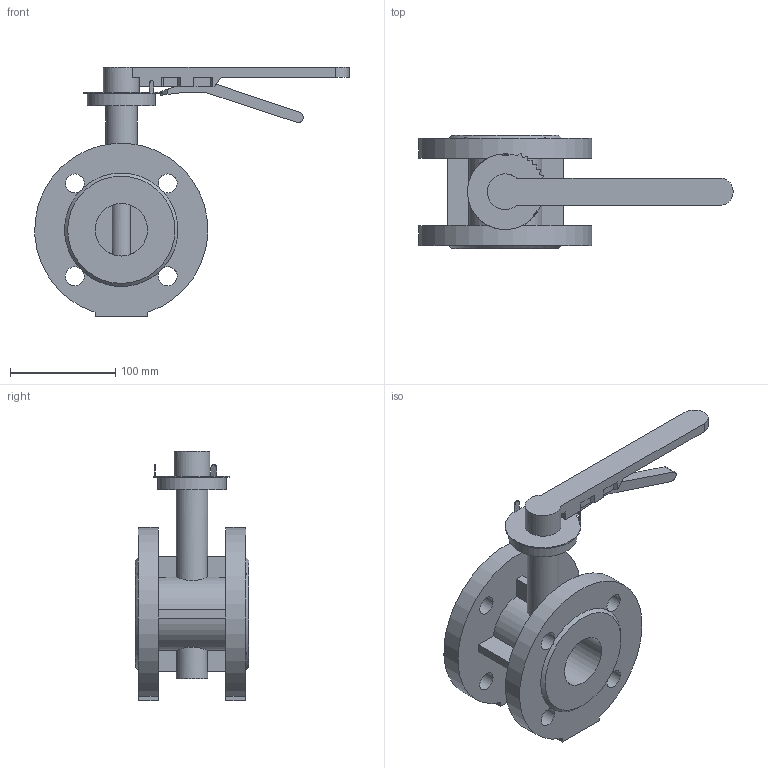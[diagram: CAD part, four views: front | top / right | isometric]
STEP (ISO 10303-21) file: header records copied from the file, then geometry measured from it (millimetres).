
FILE_DESCRIPTION(('STEP AP203'), '1');
FILE_NAME('Çàòâîð 021F.Y DN50 +ðóêîÿòêà', '', ('UNSPECIFIED'), ('UNSPECIFIED'), 'ASCON STEP Converter 1.6', 'ASCON Math Kernel', '');
FILE_SCHEMA(('CONFIG_CONTROL_DESIGN'));
Length unit declared in the file: millimetre
Bounding box: 299.35 x 108 x 238 mm (x, y, z)
Volume: 1143414.9 mm3; surface area: 184417.1 mm2
Topology: 1 solids, 1 shells, 164 faces, 468 edges, 311 vertices
Faces by surface type: plane 105, cylinder 57, cone 2
Full cylindrical faces by diameter (mm): 8 x4, 18 x8, 30 x2, 34 x1, 50 x2, 65 x1
Entity records: 7915 total; most frequent: CARTESIAN_POINT 2253, ORIENTED_EDGE 896, DIRECTION 885, EDGE_CURVE 448, VERTEX_POINT 311, AXIS2_PLACEMENT_3D 299, LINE 287, VECTOR 287
